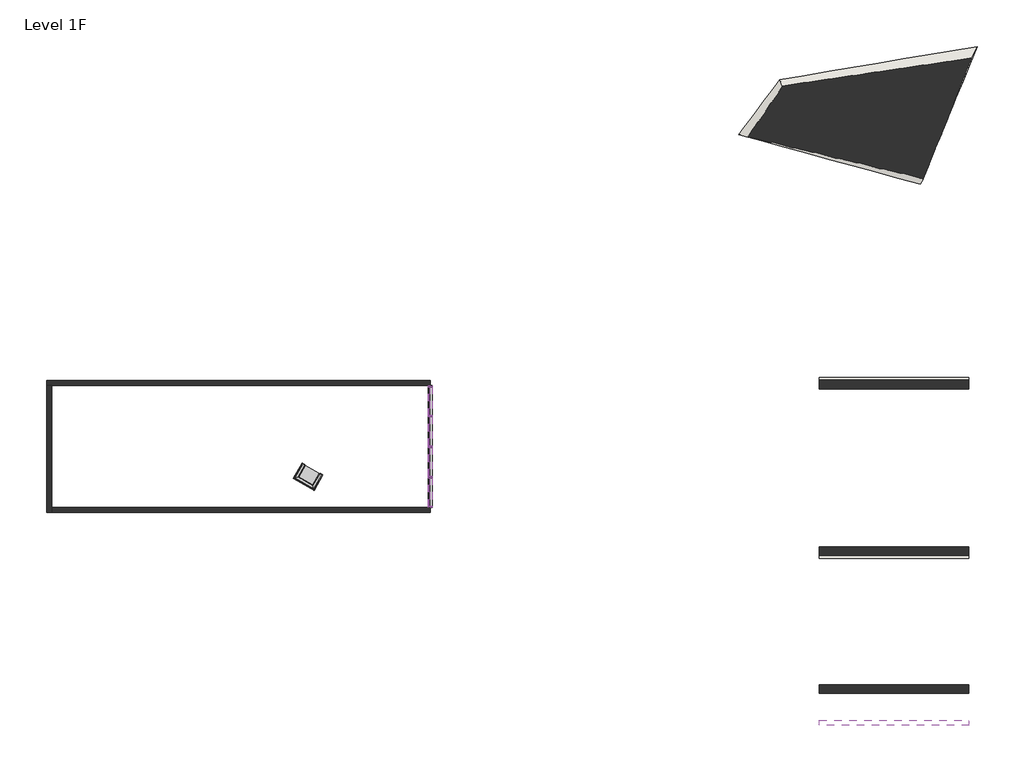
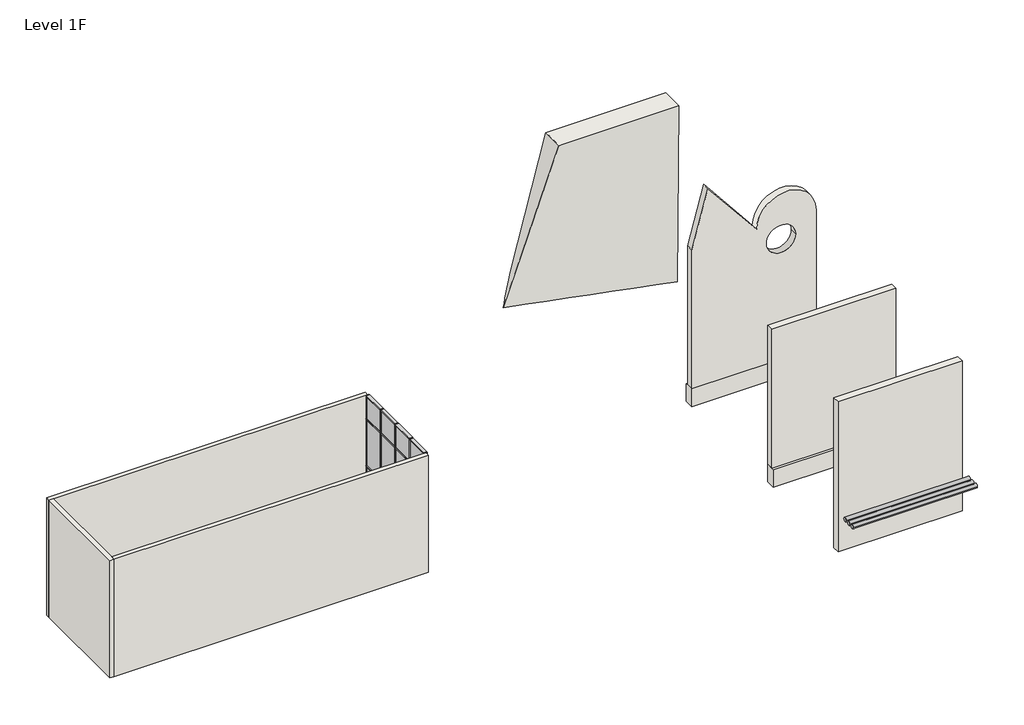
# One storey: 31 members, 12 plates, 9 walls, 1 furniture element, 1 proxy.
"""IFC4 building model written with IfcOpenShell, lengths in millimetres."""

from ifc_helpers import new_model, si_unit, point, frame, frame_2d, origin, place, context, project, spatial, polyline, circle_curve, trimmed, segment, composite_curve, outline, extrude, faceted_brep, transform, mapped, element, save
from components import m_chair_corbu_m_chair_corbu_62085674, rectangular_mullion_50_x_150mm_bf2a19b9, rectangular_mullion_50_x_150mm_44208fb9, rectangular_mullion_50_x_150mm_771d268e, rectangular_mullion_50_x_150mm_cd6dba41, rectangular_mullion_50_x_150mm_6225e4e3, rectangular_mullion_50_x_150mm_d99dc9be, rectangular_mullion_50_x_150mm_662c37b1, rectangular_mullion_50_x_150mm_6588f46c, system_panel_glazed_785ef731, system_panel_glazed_ea4c2e61, system_panel_glazed_7b0188e2, system_panel_glazed_46823989, system_panel_glazed_cea579cb, system_panel_glazed_d052432a, wall_7f0be361

model = new_model("IFC4")

# Units and contexts
model_context = context("Model", 3, world=origin())
ifc_project = project(units=[si_unit("LENGTHUNIT", "METRE", prefix="MILLI")], contexts=[model_context])

# Site, building, storey
site = spatial("IfcSite", under=ifc_project)
building = spatial("IfcBuilding", under=site)
storey = spatial("IfcBuildingStorey", under=building, Name="Level 1F", Elevation=100.0)

# Proxy
placement = place(None, origin())
element("IfcBuildingElementProxy", 1, Name="Wall Sweeps", at=placement, inside=storey, context=model_context, shape_type="SweptSolid", body=[
    extrude(outline(composite_curve([segment(trimmed(circle_curve(frame_2d((-20207.8369347, 2098.9672426)), 101.6), [point((-20106.2369347, 2098.9672426))], [point((-20309.4369347, 2098.9672426))], False, "CARTESIAN"), True, "CONTINUOUS"), segment(trimmed(circle_curve(frame_2d((-20207.8369347, 2098.9672426)), 101.6), [point((-20309.4369347, 2098.9672426))], [point((-20106.2369347, 2098.9672426))], False, "CARTESIAN"), True, "CONTINUOUS")], self_intersect=False)), frame((23343.7856485, 0.0, 0.0), z_axis=(1.0, 0.0, 0.0), x_axis=(0.0, 1.0, 0.0)), (0.0, 0.0, 1.0), 6000.0),
    extrude(outline(composite_curve([segment(trimmed(circle_curve(frame_2d((-20506.2869347, 2098.9672426)), 101.6), [point((-20404.6869347, 2098.9672426))], [point((-20607.8869347, 2098.9672426))], False, "CARTESIAN"), True, "CONTINUOUS"), segment(trimmed(circle_curve(frame_2d((-20506.2869347, 2098.9672426)), 101.6), [point((-20607.8869347, 2098.9672426))], [point((-20404.6869347, 2098.9672426))], False, "CARTESIAN"), True, "CONTINUOUS")], self_intersect=False)), frame((23343.7856485, 0.0, 0.0), z_axis=(1.0, 0.0, 0.0), x_axis=(0.0, 1.0, 0.0)), (0.0, 0.0, 1.0), 6000.0),
    extrude(outline(composite_curve([segment(trimmed(circle_curve(frame_2d((-20792.0369347, 2098.9672426)), 101.6), [point((-20690.4369347, 2098.9672426))], [point((-20893.6369347, 2098.9672426))], False, "CARTESIAN"), True, "CONTINUOUS"), segment(trimmed(circle_curve(frame_2d((-20792.0369347, 2098.9672426)), 101.6), [point((-20893.6369347, 2098.9672426))], [point((-20690.4369347, 2098.9672426))], False, "CARTESIAN"), True, "CONTINUOUS")], self_intersect=False)), frame((23343.7856485, 0.0, 0.0), z_axis=(1.0, 0.0, 0.0), x_axis=(0.0, 1.0, 0.0)), (0.0, 0.0, 1.0), 6000.0),
])

# Furniture
m_chair_corbu_m_chair_corbu_shape = m_chair_corbu_m_chair_corbu_62085674(model_context)
element("IfcFurniture", 2, ObjectType="M_Chair-Corbu : M_Chair-Corbu", at=placement, inside=storey, context=model_context, shape_type="MappedRepresentation", body=[
    mapped(m_chair_corbu_m_chair_corbu_shape, transform((3554.9183546, -10786.9477689, 100.0), x_axis=(-0.8660254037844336, 0.5000000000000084, 0.0), y_axis=(-0.5000000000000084, -0.8660254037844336, 0.0), z_axis=(0.0, 0.0, 1.0))),
])

# Members
rectangular_mullion_50_x_150mm_shape = rectangular_mullion_50_x_150mm_bf2a19b9(model_context)
element("IfcMember", 3, ObjectType="Rectangular Mullion : 50 x 150mm", at=placement, inside=storey, context=model_context, shape_type="MappedRepresentation", body=[
    mapped(rectangular_mullion_50_x_150mm_shape, transform((7726.2760724, -7296.8966791, 6100.0), x_axis=(0.0, 0.0, 1.0), y_axis=(1.0, 0.0, 0.0), z_axis=(0.0, 1.0, 0.0))),
])
element("IfcMember", 4, ObjectType="Rectangular Mullion : 50 x 150mm", at=placement, inside=storey, context=model_context, shape_type="MappedRepresentation", body=[
    mapped(rectangular_mullion_50_x_150mm_shape, transform((7726.2760724, -10946.8966789, 6100.0), x_axis=(0.0, 0.0, 1.0), y_axis=(1.0, 0.0, 0.0), z_axis=(0.0, 1.0, 0.0))),
])
element("IfcMember", 5, ObjectType="Rectangular Mullion : 50 x 150mm", at=placement, inside=storey, context=model_context, shape_type="MappedRepresentation", body=[
    mapped(rectangular_mullion_50_x_150mm_shape, transform((7726.2760724, -12096.8966791, 100.0), x_axis=(0.0, 0.0, -1.0), y_axis=(1.0, 0.0, 0.0), z_axis=(0.0, -1.0, 0.0))),
])
element("IfcMember", 6, ObjectType="Rectangular Mullion : 50 x 150mm", at=placement, inside=storey, context=model_context, shape_type="MappedRepresentation", body=[
    mapped(rectangular_mullion_50_x_150mm_shape, transform((7726.2760724, -8446.8966792, 100.0), x_axis=(0.0, 0.0, -1.0), y_axis=(1.0, 0.0, 0.0), z_axis=(0.0, -1.0, 0.0))),
])
rectangular_mullion_50_x_150mm_2_shape = rectangular_mullion_50_x_150mm_44208fb9(model_context)
element("IfcMember", 7, ObjectType="Rectangular Mullion : 50 x 150mm", at=placement, inside=storey, context=model_context, shape_type="MappedRepresentation", body=[
    mapped(rectangular_mullion_50_x_150mm_2_shape, transform((7726.2760724, -9721.8966791, 6100.0), x_axis=(0.0, 0.0, 1.0), y_axis=(1.0, 0.0, 0.0), z_axis=(0.0, 1.0, 0.0))),
])
element("IfcMember", 8, ObjectType="Rectangular Mullion : 50 x 150mm", at=placement, inside=storey, context=model_context, shape_type="MappedRepresentation", body=[
    mapped(rectangular_mullion_50_x_150mm_2_shape, transform((7726.2760724, -8496.8966792, 6100.0), x_axis=(0.0, 0.0, 1.0), y_axis=(1.0, 0.0, 0.0), z_axis=(0.0, 1.0, 0.0))),
])
element("IfcMember", 9, ObjectType="Rectangular Mullion : 50 x 150mm", at=placement, inside=storey, context=model_context, shape_type="MappedRepresentation", body=[
    mapped(rectangular_mullion_50_x_150mm_2_shape, transform((7726.2760724, -10896.8966789, 100.0), x_axis=(0.0, 0.0, -1.0), y_axis=(1.0, 0.0, 0.0), z_axis=(0.0, -1.0, 0.0))),
])
element("IfcMember", 10, ObjectType="Rectangular Mullion : 50 x 150mm", at=placement, inside=storey, context=model_context, shape_type="MappedRepresentation", body=[
    mapped(rectangular_mullion_50_x_150mm_2_shape, transform((7726.2760724, -9671.8966791, 100.0), x_axis=(0.0, 0.0, -1.0), y_axis=(1.0, 0.0, 0.0), z_axis=(0.0, -1.0, 0.0))),
])
rectangular_mullion_50_x_150mm_3_shape = rectangular_mullion_50_x_150mm_771d268e(model_context)
element("IfcMember", 11, ObjectType="Rectangular Mullion : 50 x 150mm", at=placement, inside=storey, context=model_context, shape_type="MappedRepresentation", body=[
    mapped(rectangular_mullion_50_x_150mm_3_shape, transform((7726.2760724, -10946.8966789, 2500.0), x_axis=(0.0, 0.0, 1.0), y_axis=(1.0, 0.0, 0.0), z_axis=(0.0, 1.0, 0.0))),
])
element("IfcMember", 12, ObjectType="Rectangular Mullion : 50 x 150mm", at=placement, inside=storey, context=model_context, shape_type="MappedRepresentation", body=[
    mapped(rectangular_mullion_50_x_150mm_3_shape, transform((7726.2760724, -7296.8966791, 2500.0), x_axis=(0.0, 0.0, 1.0), y_axis=(1.0, 0.0, 0.0), z_axis=(0.0, 1.0, 0.0))),
])
element("IfcMember", 13, ObjectType="Rectangular Mullion : 50 x 150mm", at=placement, inside=storey, context=model_context, shape_type="MappedRepresentation", body=[
    mapped(rectangular_mullion_50_x_150mm_3_shape, transform((7726.2760724, -10946.8966789, 4900.0), x_axis=(0.0, 0.0, 1.0), y_axis=(1.0, 0.0, 0.0), z_axis=(0.0, 1.0, 0.0))),
])
element("IfcMember", 14, ObjectType="Rectangular Mullion : 50 x 150mm", at=placement, inside=storey, context=model_context, shape_type="MappedRepresentation", body=[
    mapped(rectangular_mullion_50_x_150mm_3_shape, transform((7726.2760724, -7296.8966791, 4900.0), x_axis=(0.0, 0.0, 1.0), y_axis=(1.0, 0.0, 0.0), z_axis=(0.0, 1.0, 0.0))),
])
rectangular_mullion_50_x_150mm_4_shape = rectangular_mullion_50_x_150mm_cd6dba41(model_context)
element("IfcMember", 15, ObjectType="Rectangular Mullion : 50 x 150mm", at=placement, inside=storey, context=model_context, shape_type="MappedRepresentation", body=[
    mapped(rectangular_mullion_50_x_150mm_4_shape, transform((7726.2760724, -9721.8966791, 2500.0), x_axis=(0.0, 0.0, 1.0), y_axis=(1.0, 0.0, 0.0), z_axis=(0.0, 1.0, 0.0))),
])
element("IfcMember", 16, ObjectType="Rectangular Mullion : 50 x 150mm", at=placement, inside=storey, context=model_context, shape_type="MappedRepresentation", body=[
    mapped(rectangular_mullion_50_x_150mm_4_shape, transform((7726.2760724, -8496.8966792, 2500.0), x_axis=(0.0, 0.0, 1.0), y_axis=(1.0, 0.0, 0.0), z_axis=(0.0, 1.0, 0.0))),
])
element("IfcMember", 17, ObjectType="Rectangular Mullion : 50 x 150mm", at=placement, inside=storey, context=model_context, shape_type="MappedRepresentation", body=[
    mapped(rectangular_mullion_50_x_150mm_4_shape, transform((7726.2760724, -9721.8966791, 4900.0), x_axis=(0.0, 0.0, 1.0), y_axis=(1.0, 0.0, 0.0), z_axis=(0.0, 1.0, 0.0))),
])
element("IfcMember", 18, ObjectType="Rectangular Mullion : 50 x 150mm", at=placement, inside=storey, context=model_context, shape_type="MappedRepresentation", body=[
    mapped(rectangular_mullion_50_x_150mm_4_shape, transform((7726.2760724, -8496.8966792, 4900.0), x_axis=(0.0, 0.0, 1.0), y_axis=(1.0, 0.0, 0.0), z_axis=(0.0, 1.0, 0.0))),
])
rectangular_mullion_50_x_150mm_5_shape = rectangular_mullion_50_x_150mm_6225e4e3(model_context)
element("IfcMember", 19, ObjectType="Rectangular Mullion : 50 x 150mm", at=placement, inside=storey, context=model_context, shape_type="MappedRepresentation", body=[
    mapped(rectangular_mullion_50_x_150mm_5_shape, transform((7726.2760724, -10921.8966789, 100.0), x_axis=(0.0, 1.0, 0.0), y_axis=(1.0, 0.0, 0.0), z_axis=(0.0, 0.0, -1.0))),
])
element("IfcMember", 20, ObjectType="Rectangular Mullion : 50 x 150mm", at=placement, inside=storey, context=model_context, shape_type="MappedRepresentation", body=[
    mapped(rectangular_mullion_50_x_150mm_5_shape, transform((7726.2760724, -9696.8966791, 100.0), x_axis=(0.0, 1.0, 0.0), y_axis=(1.0, 0.0, 0.0), z_axis=(0.0, 0.0, -1.0))),
])
element("IfcMember", 21, ObjectType="Rectangular Mullion : 50 x 150mm", at=placement, inside=storey, context=model_context, shape_type="MappedRepresentation", body=[
    mapped(rectangular_mullion_50_x_150mm_5_shape, transform((7726.2760724, -8471.8966792, 100.0), x_axis=(0.0, 1.0, 0.0), y_axis=(1.0, 0.0, 0.0), z_axis=(0.0, 0.0, -1.0))),
])
element("IfcMember", 22, ObjectType="Rectangular Mullion : 50 x 150mm", at=placement, inside=storey, context=model_context, shape_type="MappedRepresentation", body=[
    mapped(rectangular_mullion_50_x_150mm_5_shape, transform((7726.2760724, -10921.8966789, 2500.0), x_axis=(0.0, 1.0, 0.0), y_axis=(1.0, 0.0, 0.0), z_axis=(0.0, 0.0, -1.0))),
])
element("IfcMember", 23, ObjectType="Rectangular Mullion : 50 x 150mm", at=placement, inside=storey, context=model_context, shape_type="MappedRepresentation", body=[
    mapped(rectangular_mullion_50_x_150mm_5_shape, transform((7726.2760724, -9696.8966791, 2500.0), x_axis=(0.0, 1.0, 0.0), y_axis=(1.0, 0.0, 0.0), z_axis=(0.0, 0.0, -1.0))),
])
element("IfcMember", 24, ObjectType="Rectangular Mullion : 50 x 150mm", at=placement, inside=storey, context=model_context, shape_type="MappedRepresentation", body=[
    mapped(rectangular_mullion_50_x_150mm_5_shape, transform((7726.2760724, -8471.8966792, 2500.0), x_axis=(0.0, 1.0, 0.0), y_axis=(1.0, 0.0, 0.0), z_axis=(0.0, 0.0, -1.0))),
])
rectangular_mullion_50_x_150mm_6_shape = rectangular_mullion_50_x_150mm_d99dc9be(model_context)
element("IfcMember", 25, ObjectType="Rectangular Mullion : 50 x 150mm", at=placement, inside=storey, context=model_context, shape_type="MappedRepresentation", body=[
    mapped(rectangular_mullion_50_x_150mm_6_shape, transform((7726.2760724, -10921.8966789, 4900.0), x_axis=(0.0, 1.0, 0.0), y_axis=(1.0, 0.0, 0.0), z_axis=(0.0, 0.0, -1.0))),
])
element("IfcMember", 26, ObjectType="Rectangular Mullion : 50 x 150mm", at=placement, inside=storey, context=model_context, shape_type="MappedRepresentation", body=[
    mapped(rectangular_mullion_50_x_150mm_6_shape, transform((7726.2760724, -9696.8966791, 4900.0), x_axis=(0.0, 1.0, 0.0), y_axis=(1.0, 0.0, 0.0), z_axis=(0.0, 0.0, -1.0))),
])
element("IfcMember", 27, ObjectType="Rectangular Mullion : 50 x 150mm", at=placement, inside=storey, context=model_context, shape_type="MappedRepresentation", body=[
    mapped(rectangular_mullion_50_x_150mm_6_shape, transform((7726.2760724, -8471.8966792, 4900.0), x_axis=(0.0, 1.0, 0.0), y_axis=(1.0, 0.0, 0.0), z_axis=(0.0, 0.0, -1.0))),
])
rectangular_mullion_50_x_150mm_7_shape = rectangular_mullion_50_x_150mm_662c37b1(model_context)
element("IfcMember", 28, ObjectType="Rectangular Mullion : 50 x 150mm", at=placement, inside=storey, context=model_context, shape_type="MappedRepresentation", body=[
    mapped(rectangular_mullion_50_x_150mm_7_shape, transform((7726.2760724, -7246.8966791, 100.0), x_axis=(0.0, 1.0, 0.0), y_axis=(1.0, 0.0, 0.0), z_axis=(0.0, 0.0, -1.0))),
])
rectangular_mullion_50_x_150mm_8_shape = rectangular_mullion_50_x_150mm_6588f46c(model_context)
element("IfcMember", 29, ObjectType="Rectangular Mullion : 50 x 150mm", at=placement, inside=storey, context=model_context, shape_type="MappedRepresentation", body=[
    mapped(rectangular_mullion_50_x_150mm_8_shape, transform((7726.2760724, -12146.8966791, 6100.0), x_axis=(0.0, -1.0, 0.0), y_axis=(1.0, 0.0, 0.0), z_axis=(0.0, 0.0, 1.0))),
])
element("IfcMember", 30, ObjectType="Rectangular Mullion : 50 x 150mm", at=placement, inside=storey, context=model_context, shape_type="MappedRepresentation", body=[
    mapped(rectangular_mullion_50_x_150mm_7_shape, transform((7726.2760724, -7246.8966791, 2500.0), x_axis=(0.0, 1.0, 0.0), y_axis=(1.0, 0.0, 0.0), z_axis=(0.0, 0.0, -1.0))),
])
element("IfcMember", 31, ObjectType="Rectangular Mullion : 50 x 150mm", at=placement, inside=storey, context=model_context, shape_type="MappedRepresentation", body=[
    mapped(rectangular_mullion_50_x_150mm_8_shape, transform((7726.2760724, -7246.8966791, 4900.0), x_axis=(0.0, 1.0, 0.0), y_axis=(1.0, 0.0, 0.0), z_axis=(0.0, 0.0, -1.0))),
])
element("IfcMember", 32, ObjectType="Rectangular Mullion : 50 x 150mm", at=placement, inside=storey, context=model_context, shape_type="MappedRepresentation", body=[
    mapped(rectangular_mullion_50_x_150mm_7_shape, transform((7726.2760724, -12146.8966791, 2500.0), x_axis=(0.0, -1.0, 0.0), y_axis=(1.0, 0.0, 0.0), z_axis=(0.0, 0.0, 1.0))),
])
element("IfcMember", 33, ObjectType="Rectangular Mullion : 50 x 150mm", at=placement, inside=storey, context=model_context, shape_type="MappedRepresentation", body=[
    mapped(rectangular_mullion_50_x_150mm_7_shape, transform((7726.2760724, -12146.8966791, 4900.0), x_axis=(0.0, -1.0, 0.0), y_axis=(1.0, 0.0, 0.0), z_axis=(0.0, 0.0, 1.0))),
])

# Plates
system_panel_glazed_shape = system_panel_glazed_785ef731(model_context)
element("IfcPlate", 34, ObjectType="System Panel : Glazed", at=placement, inside=storey, context=model_context, shape_type="MappedRepresentation", body=[
    mapped(system_panel_glazed_shape, transform((7726.2760724, -11521.896679, 150.0), x_axis=(0.0, 1.0, 0.0), y_axis=(-1.0, 0.0, 0.0), z_axis=(0.0, 0.0, 1.0))),
])
element("IfcPlate", 35, ObjectType="System Panel : Glazed", at=placement, inside=storey, context=model_context, shape_type="MappedRepresentation", body=[
    mapped(system_panel_glazed_shape, transform((7726.2760724, -7871.8966791, 150.0), x_axis=(0.0, 1.0, 0.0), y_axis=(-1.0, 0.0, 0.0), z_axis=(0.0, 0.0, 1.0))),
])
system_panel_glazed_2_shape = system_panel_glazed_ea4c2e61(model_context)
element("IfcPlate", 36, ObjectType="System Panel : Glazed", at=placement, inside=storey, context=model_context, shape_type="MappedRepresentation", body=[
    mapped(system_panel_glazed_2_shape, transform((7726.2760724, -10309.396679, 150.0), x_axis=(0.0, 1.0, 0.0), y_axis=(-1.0, 0.0, 0.0), z_axis=(0.0, 0.0, 1.0))),
])
element("IfcPlate", 37, ObjectType="System Panel : Glazed", at=placement, inside=storey, context=model_context, shape_type="MappedRepresentation", body=[
    mapped(system_panel_glazed_2_shape, transform((7726.2760724, -9084.3966791, 150.0), x_axis=(0.0, 1.0, 0.0), y_axis=(-1.0, 0.0, 0.0), z_axis=(0.0, 0.0, 1.0))),
])
system_panel_glazed_3_shape = system_panel_glazed_7b0188e2(model_context)
element("IfcPlate", 38, ObjectType="System Panel : Glazed", at=placement, inside=storey, context=model_context, shape_type="MappedRepresentation", body=[
    mapped(system_panel_glazed_3_shape, transform((7726.2760724, -11521.896679, 2525.0), x_axis=(0.0, 1.0, 0.0), y_axis=(-1.0, 0.0, 0.0), z_axis=(0.0, 0.0, 1.0))),
])
element("IfcPlate", 39, ObjectType="System Panel : Glazed", at=placement, inside=storey, context=model_context, shape_type="MappedRepresentation", body=[
    mapped(system_panel_glazed_3_shape, transform((7726.2760724, -7871.8966791, 2525.0), x_axis=(0.0, 1.0, 0.0), y_axis=(-1.0, 0.0, 0.0), z_axis=(0.0, 0.0, 1.0))),
])
system_panel_glazed_4_shape = system_panel_glazed_46823989(model_context)
element("IfcPlate", 40, ObjectType="System Panel : Glazed", at=placement, inside=storey, context=model_context, shape_type="MappedRepresentation", body=[
    mapped(system_panel_glazed_4_shape, transform((7726.2760724, -10309.396679, 2525.0), x_axis=(0.0, 1.0, 0.0), y_axis=(-1.0, 0.0, 0.0), z_axis=(0.0, 0.0, 1.0))),
])
element("IfcPlate", 41, ObjectType="System Panel : Glazed", at=placement, inside=storey, context=model_context, shape_type="MappedRepresentation", body=[
    mapped(system_panel_glazed_4_shape, transform((7726.2760724, -9084.3966791, 2525.0), x_axis=(0.0, 1.0, 0.0), y_axis=(-1.0, 0.0, 0.0), z_axis=(0.0, 0.0, 1.0))),
])
system_panel_glazed_5_shape = system_panel_glazed_cea579cb(model_context)
element("IfcPlate", 42, ObjectType="System Panel : Glazed", at=placement, inside=storey, context=model_context, shape_type="MappedRepresentation", body=[
    mapped(system_panel_glazed_5_shape, transform((7726.2760724, -11521.896679, 4925.0), x_axis=(0.0, 1.0, 0.0), y_axis=(-1.0, 0.0, 0.0), z_axis=(0.0, 0.0, 1.0))),
])
element("IfcPlate", 43, ObjectType="System Panel : Glazed", at=placement, inside=storey, context=model_context, shape_type="MappedRepresentation", body=[
    mapped(system_panel_glazed_5_shape, transform((7726.2760724, -7871.8966791, 4925.0), x_axis=(0.0, 1.0, 0.0), y_axis=(-1.0, 0.0, 0.0), z_axis=(0.0, 0.0, 1.0))),
])
system_panel_glazed_6_shape = system_panel_glazed_d052432a(model_context)
element("IfcPlate", 44, ObjectType="System Panel : Glazed", at=placement, inside=storey, context=model_context, shape_type="MappedRepresentation", body=[
    mapped(system_panel_glazed_6_shape, transform((7726.2760724, -10309.396679, 4925.0), x_axis=(0.0, 1.0, 0.0), y_axis=(-1.0, 0.0, 0.0), z_axis=(0.0, 0.0, 1.0))),
])
element("IfcPlate", 45, ObjectType="System Panel : Glazed", at=placement, inside=storey, context=model_context, shape_type="MappedRepresentation", body=[
    mapped(system_panel_glazed_6_shape, transform((7726.2760724, -9084.3966791, 4925.0), x_axis=(0.0, 1.0, 0.0), y_axis=(-1.0, 0.0, 0.0), z_axis=(0.0, 0.0, 1.0))),
])

# Walls
wall_shape = wall_7f0be361(model_context)
element("IfcWall", 46, ObjectType="Walls 1_inplace_component : Walls 1_inplace_component", at=placement, inside=storey, context=model_context, shape_type="MappedRepresentation", body=[
    mapped(wall_shape, transform((0.0, 0.0, 0.0), x_axis=(1.0, 0.0, 0.0), y_axis=(0.0, 1.0, 0.0), z_axis=(0.0, 0.0, 1.0))),
])
element("IfcWall", 47, ObjectType="Exterior - Block on Mtl. Stud", at=placement, inside=storey, context=model_context, shape_type="Brep", body=[
    faceted_brep([(29343.7856485, -7376.8966791, 100.0), (29343.7856485, -7376.8966791, 1000.0), (23343.7856485, -7376.8966791, 1000.0), (23343.7856485, -7376.8966791, 100.0), (29343.7856485, -6916.8966791, 100.0), (23343.7856485, -6916.8966791, 100.0), (23343.7856485, -6916.8966791, 1000.0), (29343.7856485, -6916.8966791, 1000.0), (29343.7856485, -7026.8966791, 1000.0), (23343.7856485, -7026.8966791, 1000.0)], [[[0, 1, 2, 3]], [[4, 5, 6, 7]], [[1, 0, 4, 7, 8]], [[2, 1, 8, 7, 6, 9]], [[3, 2, 9, 6, 5]], [[0, 3, 5, 4]]]),
])
element("IfcWall", 48, ObjectType="Exterior - Block on Mtl. Stud", at=placement, inside=storey, context=model_context, shape_type="Brep", body=[
    faceted_brep([(29343.7856485, -13716.8966791, 100.0), (23343.7856485, -13716.8966791, 100.0), (23343.7856485, -13716.8966791, 1000.0), (29343.7856485, -13716.8966791, 1000.0), (29343.7856485, -14176.8966791, 100.0), (29343.7856485, -14176.8966791, 1000.0), (23343.7856485, -14176.8966791, 1000.0), (23343.7856485, -14176.8966791, 100.0), (23343.7856485, -14066.8966791, 1000.0), (29343.7856485, -14066.8966791, 1000.0)], [[[0, 1, 2, 3]], [[4, 5, 6, 7]], [[1, 0, 4, 7]], [[2, 1, 7, 6, 8]], [[3, 2, 8, 6, 5, 9]], [[0, 3, 9, 5, 4]]]),
])
element("IfcWall", 49, ObjectType="Exterior - Brick on Mtl. Stud", at=placement, inside=storey, context=model_context, shape_type="SweptSolid", body=[
    extrude(outline(composite_curve([segment(trimmed(circle_curve(frame_2d((8069.117171, 27908.0666842)), 1435.7189643), [point((8069.117171, 29343.7856485))], [point((8069.117171, 26472.3477198))], False, "CARTESIAN"), True, "CONTINUOUS"), segment(polyline([(8069.117171, 26472.3477198), (10970.3365019, 24115.4934704), (8100.0, 23343.7856485), (1000.0, 23343.7856485), (1000.0, 29343.7856485), (8069.117171, 29343.7856485)]), True, "CONTINUOUS")], self_intersect=False), holes=[composite_curve([segment(trimmed(circle_curve(frame_2d((7175.1303676, 27651.1050023)), 700.0), [point((7175.1303676, 26951.1050023))], [point((7175.1303676, 28351.1050023))], True, "CARTESIAN"), True, "CONTINUOUS"), segment(trimmed(circle_curve(frame_2d((7175.1303676, 27651.1050023)), 700.0), [point((7175.1303676, 28351.1050023))], [point((7175.1303676, 26951.1050023))], True, "CARTESIAN"), True, "CONTINUOUS")], self_intersect=False)]), frame((0.0, -7376.8966791, 0.0), z_axis=(0.0, 1.0, 0.0), x_axis=(0.0, 0.0, 1.0)), (0.0, 0.0, 1.0), 350.0),
])
element("IfcWall", 50, ObjectType="Exterior - Brick on Mtl. Stud", at=placement, inside=storey, context=model_context, shape_type="SweptSolid", body=[
    extrude(outline(polyline([(23343.7856485, -13716.8966791), (29343.7856485, -13716.8966791), (29343.7856485, -14066.8966791), (23343.7856485, -14066.8966791), (23343.7856485, -13716.8966791)])), frame((0.0, 0.0, 1000.0), z_axis=(0.0, 0.0, 1.0), x_axis=(1.0, 0.0, 0.0)), (0.0, 0.0, 1.0), 7100.0),
])
element("IfcWall", 51, ObjectType="Exterior - Brick on Mtl. Stud TN_custom1", at=placement, inside=storey, context=model_context, shape_type="Brep", body=[
    faceted_brep([(23343.7856485, -19607.4157458, 100.0), (29343.7856485, -19607.4157458, 100.0), (29343.7856485, -19607.4157458, 6995.2136346), (29343.7856485, -19607.4157458, 7757.2136346), (23343.7856485, -19607.4157458, 7757.2136346), (23343.7856485, -19607.4157458, 6995.2136346), (23343.7856485, -19257.4157458, 100.0), (23343.7856485, -19257.4157458, 7757.2136346), (29343.7856485, -19257.4157458, 7757.2136346), (29343.7856485, -19257.4157458, 100.0)], [[[0, 1, 2, 3, 4, 5]], [[6, 7, 8, 9]], [[1, 0, 6, 9]], [[3, 2, 1, 9, 8]], [[4, 3, 8, 7]], [[0, 5, 4, 7, 6]]]),
])
element("IfcWall", 52, ObjectType="Generic - 200mm", at=placement, inside=storey, context=model_context, shape_type="Brep", body=[
    faceted_brep([(7726.2760724, -7046.8966791, 100.0), (-7673.7239276, -7046.8966791, 100.0), (-7673.7239276, -7046.8966791, 6100.0), (7726.2760724, -7046.8966791, 6100.0), (7726.2760724, -7246.8966791, 100.0), (7726.2760724, -7246.8966791, 6100.0), (-7473.7239276, -7246.8966791, 6100.0), (-7673.7239276, -7246.8966791, 6100.0), (-7673.7239276, -7246.8966791, 100.0), (-7473.7239276, -7246.8966791, 100.0)], [[[0, 1, 2, 3]], [[4, 5, 6, 7, 8, 9]], [[1, 0, 4, 9, 8]], [[3, 2, 7, 6, 5]], [[0, 3, 5, 4]], [[2, 1, 8, 7]]]),
])
element("IfcWall", 53, ObjectType="Generic - 200mm", at=placement, inside=storey, context=model_context, shape_type="Brep", body=[
    faceted_brep([(-7673.7239276, -7246.8966791, 100.0), (-7673.7239276, -12346.8966791, 100.0), (-7673.7239276, -12346.8966791, 6100.0), (-7673.7239276, -7246.8966791, 6100.0), (-7473.7239276, -7246.8966791, 100.0), (-7473.7239276, -7246.8966791, 6100.0), (-7473.7239276, -12146.8966791, 6100.0), (-7473.7239276, -12346.8966791, 6100.0), (-7473.7239276, -12346.8966791, 100.0), (-7473.7239276, -12146.8966791, 100.0)], [[[0, 1, 2, 3]], [[4, 5, 6, 7, 8, 9]], [[1, 0, 4, 9, 8]], [[3, 2, 7, 6, 5]], [[0, 3, 5, 4]], [[2, 1, 8, 7]]]),
])
element("IfcWall", 54, ObjectType="Generic - 200mm", at=placement, inside=storey, context=model_context, shape_type="SweptSolid", body=[
    extrude(outline(polyline([(7726.2760724, -12346.8966791), (-7473.7239276, -12346.8966791), (-7473.7239276, -12146.8966791), (7726.2760724, -12146.8966791), (7726.2760724, -12346.8966791)])), frame((0.0, 0.0, 100.0), z_axis=(0.0, 0.0, 1.0), x_axis=(1.0, 0.0, 0.0)), (0.0, 0.0, 1.0), 6000.0),
])

save(model, "model.ifc")
